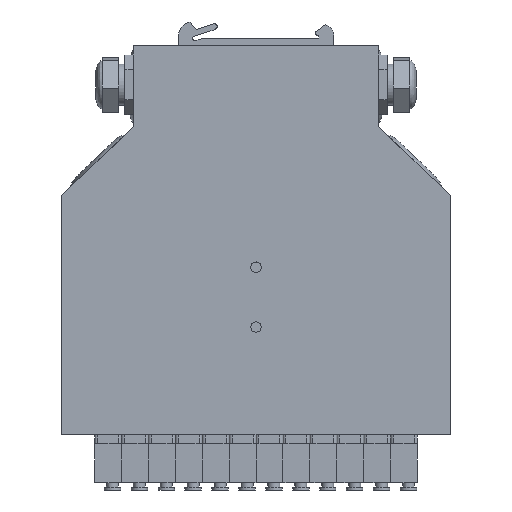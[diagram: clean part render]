
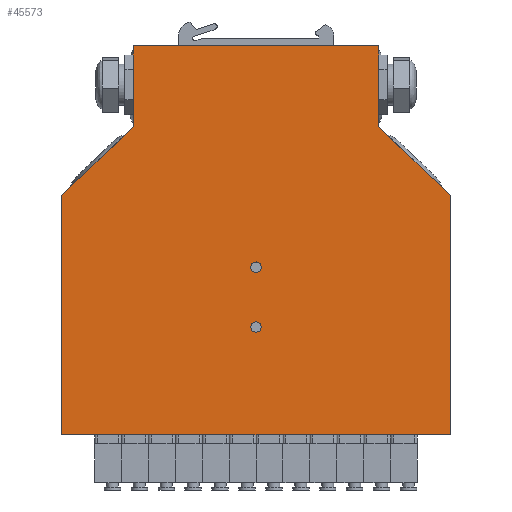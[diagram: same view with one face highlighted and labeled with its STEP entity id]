
A CAD part, front view. The second image highlights one B-rep face of the part: STEP entity #45573.
In plain terms, the highlighted planar face has unit normal (0, -1, 0).
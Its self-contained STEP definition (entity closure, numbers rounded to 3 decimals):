
#45260=CARTESIAN_POINT('',(41.,0.,130.));
#45261=VERTEX_POINT('',#45260);
#45262=CARTESIAN_POINT('',(41.,0.,103.));
#45263=VERTEX_POINT('',#45262);
#45264=CARTESIAN_POINT('',(41.,0.,130.));
#45265=DIRECTION('',(0.,0.,-1.));
#45266=VECTOR('',#45265,27.);
#45267=LINE('',#45264,#45266);
#45268=EDGE_CURVE('',#45261,#45263,#45267,.T.);
#45305=CARTESIAN_POINT('',(65.,0.,80.));
#45306=VERTEX_POINT('',#45305);
#45307=CARTESIAN_POINT('',(41.,0.,103.));
#45308=DIRECTION('',(0.722,0.,-0.692));
#45309=VECTOR('',#45308,33.242);
#45310=LINE('',#45307,#45309);
#45311=EDGE_CURVE('',#45263,#45306,#45310,.T.);
#45369=CARTESIAN_POINT('',(65.,0.,0.));
#45370=VERTEX_POINT('',#45369);
#45371=CARTESIAN_POINT('',(65.,0.,80.));
#45372=DIRECTION('',(-0.,0.,-1.));
#45373=VECTOR('',#45372,80.);
#45374=LINE('',#45371,#45373);
#45375=EDGE_CURVE('',#45306,#45370,#45374,.T.);
#45393=CARTESIAN_POINT('',(-65.,0.,0.));
#45394=VERTEX_POINT('',#45393);
#45395=CARTESIAN_POINT('',(65.,0.,0.));
#45396=DIRECTION('',(-1.,0.,0.));
#45397=VECTOR('',#45396,130.);
#45398=LINE('',#45395,#45397);
#45399=EDGE_CURVE('',#45370,#45394,#45398,.T.);
#45425=CARTESIAN_POINT('',(-65.,0.,80.));
#45426=VERTEX_POINT('',#45425);
#45427=CARTESIAN_POINT('',(-65.,0.,0.));
#45428=DIRECTION('',(0.,0.,1.));
#45429=VECTOR('',#45428,80.);
#45430=LINE('',#45427,#45429);
#45431=EDGE_CURVE('',#45394,#45426,#45430,.T.);
#45455=CARTESIAN_POINT('',(-41.,0.,103.));
#45456=VERTEX_POINT('',#45455);
#45457=CARTESIAN_POINT('',(-65.,0.,80.));
#45458=DIRECTION('',(0.722,0.,0.692));
#45459=VECTOR('',#45458,33.242);
#45460=LINE('',#45457,#45459);
#45461=EDGE_CURVE('',#45426,#45456,#45460,.T.);
#45482=CARTESIAN_POINT('',(-41.,0.,130.));
#45483=VERTEX_POINT('',#45482);
#45484=CARTESIAN_POINT('',(-41.,0.,103.));
#45485=DIRECTION('',(-0.,0.,1.));
#45486=VECTOR('',#45485,27.);
#45487=LINE('',#45484,#45486);
#45488=EDGE_CURVE('',#45456,#45483,#45487,.T.);
#45506=CARTESIAN_POINT('',(-41.,0.,130.));
#45507=DIRECTION('',(1.,0.,-0.));
#45508=VECTOR('',#45507,82.);
#45509=LINE('',#45506,#45508);
#45510=EDGE_CURVE('',#45483,#45261,#45509,.T.);
#45518=CARTESIAN_POINT('',(0.,0.,0.));
#45519=DIRECTION('',(0.,1.,0.));
#45520=DIRECTION('',(-1.,0.,0.));
#45521=AXIS2_PLACEMENT_3D('',#45518,#45519,#45520);
#45522=PLANE('',#45521);
#45523=CARTESIAN_POINT('',(-0.,0.,54.25));
#45524=VERTEX_POINT('',#45523);
#45525=CARTESIAN_POINT('',(1.75,0.,56.));
#45526=VERTEX_POINT('',#45525);
#45527=CARTESIAN_POINT('',(-0.,0.,56.));
#45528=DIRECTION('',(0.,-1.,0.));
#45529=DIRECTION('',(1.,0.,-0.));
#45530=AXIS2_PLACEMENT_3D('',#45527,#45528,#45529);
#45531=CIRCLE('',#45530,1.75);
#45532=EDGE_CURVE('',#45524,#45526,#45531,.T.);
#45533=ORIENTED_EDGE('',*,*,#45532,.F.);
#45534=CARTESIAN_POINT('',(-0.,0.,56.));
#45535=DIRECTION('',(0.,-1.,0.));
#45536=DIRECTION('',(1.,0.,-0.));
#45537=AXIS2_PLACEMENT_3D('',#45534,#45535,#45536);
#45538=CIRCLE('',#45537,1.75);
#45539=EDGE_CURVE('',#45526,#45524,#45538,.T.);
#45540=ORIENTED_EDGE('',*,*,#45539,.F.);
#45541=EDGE_LOOP('',(#45533,#45540));
#45542=FACE_BOUND('',#45541,.T.);
#45543=CARTESIAN_POINT('',(-0.,0.,34.25));
#45544=VERTEX_POINT('',#45543);
#45545=CARTESIAN_POINT('',(-0.,0.,37.75));
#45546=VERTEX_POINT('',#45545);
#45547=CARTESIAN_POINT('',(-0.,0.,36.));
#45548=DIRECTION('',(0.,-1.,0.));
#45549=DIRECTION('',(0.,0.,1.));
#45550=AXIS2_PLACEMENT_3D('',#45547,#45548,#45549);
#45551=CIRCLE('',#45550,1.75);
#45552=EDGE_CURVE('',#45544,#45546,#45551,.T.);
#45553=ORIENTED_EDGE('',*,*,#45552,.F.);
#45554=CARTESIAN_POINT('',(-0.,0.,36.));
#45555=DIRECTION('',(0.,-1.,0.));
#45556=DIRECTION('',(0.,0.,1.));
#45557=AXIS2_PLACEMENT_3D('',#45554,#45555,#45556);
#45558=CIRCLE('',#45557,1.75);
#45559=EDGE_CURVE('',#45546,#45544,#45558,.T.);
#45560=ORIENTED_EDGE('',*,*,#45559,.F.);
#45561=EDGE_LOOP('',(#45553,#45560));
#45562=FACE_BOUND('',#45561,.T.);
#45563=ORIENTED_EDGE('',*,*,#45268,.F.);
#45564=ORIENTED_EDGE('',*,*,#45510,.F.);
#45565=ORIENTED_EDGE('',*,*,#45488,.F.);
#45566=ORIENTED_EDGE('',*,*,#45461,.F.);
#45567=ORIENTED_EDGE('',*,*,#45431,.F.);
#45568=ORIENTED_EDGE('',*,*,#45399,.F.);
#45569=ORIENTED_EDGE('',*,*,#45375,.F.);
#45570=ORIENTED_EDGE('',*,*,#45311,.F.);
#45571=EDGE_LOOP('',(#45563,#45564,#45565,#45566,#45567,#45568,#45569,#45570));
#45572=FACE_BOUND('',#45571,.T.);
#45573=ADVANCED_FACE('',(#45542,#45562,#45572),#45522,.F.);
